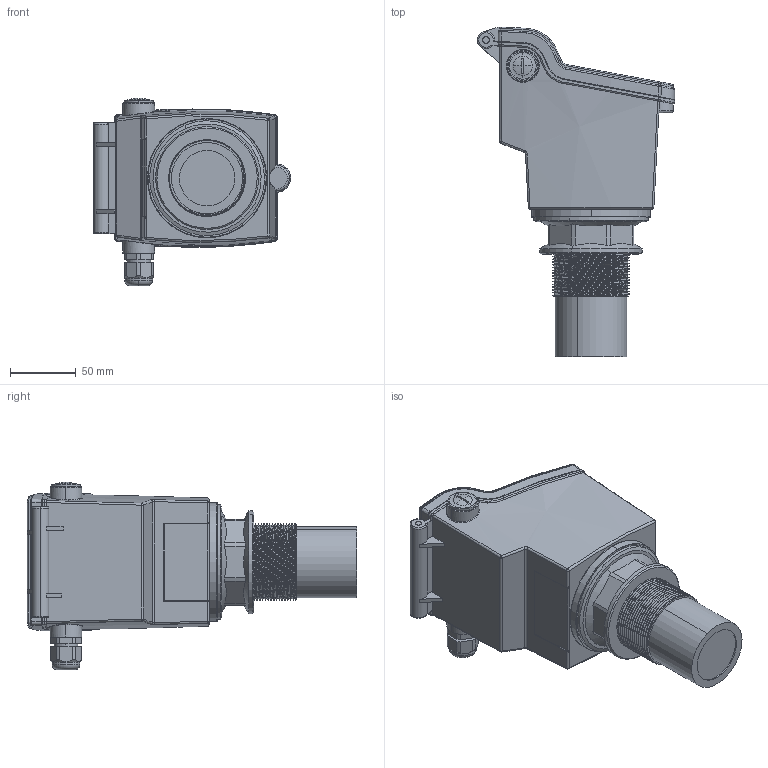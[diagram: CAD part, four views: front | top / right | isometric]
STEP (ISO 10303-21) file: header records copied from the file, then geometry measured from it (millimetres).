
FILE_DESCRIPTION (( 'STEP AP214' ), '1' );
FILE_NAME ('ECHO 謥踙摳.STEP', '2021-02-15T11:37:00', ( '' ), ( '' ), 'SwSTEP 2.0', 'SolidWorks 2020', '' );
FILE_SCHEMA (( 'AUTOMOTIVE_DESIGN' ));
Length unit declared in the file: millimetre
Products named in the file (6): ч蜱齁罻; 幄鼭歑; 扻錝僝鍧; ECHO 謥踙摳; âàðèàíò êîðïóñà; Íèç êîðïóñà ðåçüáà
Assembly tree (5 placements, depth 2):
  ECHO 謥踙摳
    âàðèàíò êîðïóñà
    ч蜱齁罻
    扻錝僝鍧
    Íèç êîðïóñà ðåçüáà
    幄鼭歑
Bounding box: 149.39 x 249.9 x 142 mm (x, y, z)
Volume: 1614676.9 mm3; surface area: 122305.9 mm2
Topology: 5 solids, 5 shells, 422 faces, 1085 edges, 679 vertices
Faces by surface type: cylinder 139, plane 129, bspline 97, cone 25, torus 22, sphere 10
Entity records: 23134 total; most frequent: CARTESIAN_POINT 13871, ORIENTED_EDGE 2158, DIRECTION 1599, EDGE_CURVE 1079, VERTEX_POINT 679, AXIS2_PLACEMENT_3D 624, EDGE_LOOP 436, FACE_OUTER_BOUND 422
